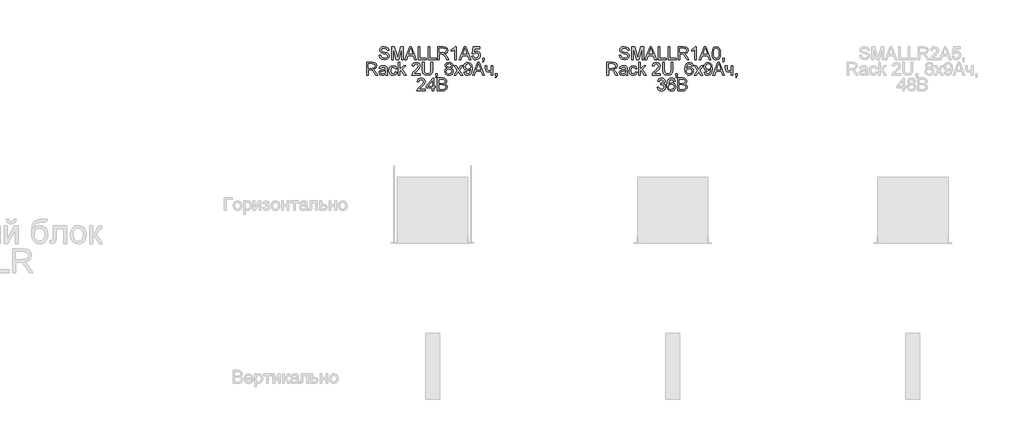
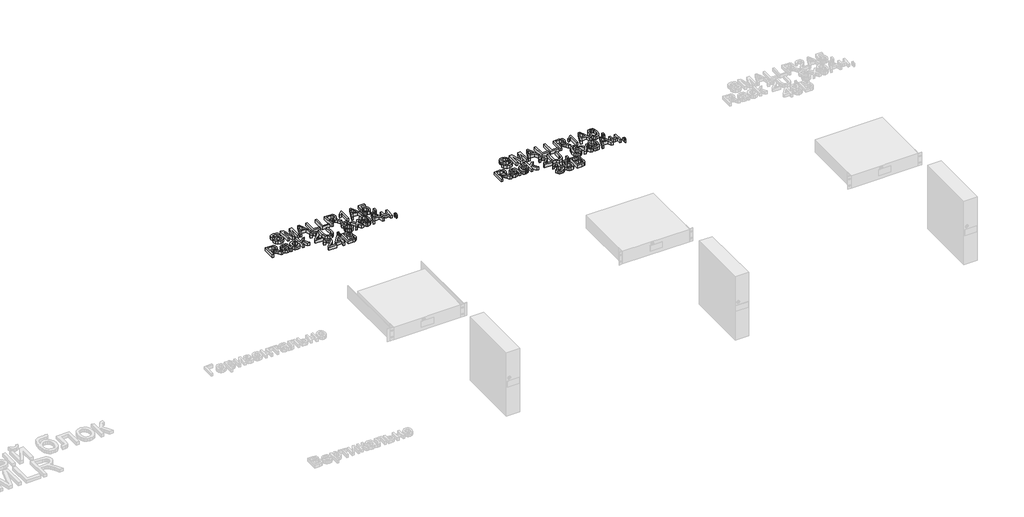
# One storey, part 16 of 74: 2 proxies.
"""IFC4 building model written with IfcOpenShell, lengths in millimetres."""

from ifc_helpers import new_model, si_unit, origin, origin_with_axes, place, context, project, spatial, polyline, outline, extrude, element, save

model = new_model("IFC4")

# Units and contexts
model_context = context("Model", 3, world=origin())
ifc_project = project(units=[si_unit("LENGTHUNIT", "METRE", prefix="MILLI")], contexts=[model_context])

# Site, building, storey
site = spatial("IfcSite", under=ifc_project)
building = spatial("IfcBuilding", under=site)
storey = spatial("IfcBuildingStorey", under=building, Name="Этаж 01", Elevation=0.0)

# Proxies
placement = place(None, origin())
element("IfcBuildingElementProxy", 1, Name="80 мм Arial", ObjectType="80 мм Arial", at=placement, inside=storey, context=model_context, shape_type="SweptSolid", body=[
    extrude(outline(polyline([(1019.2043971, -23060.6810362), (1029.2500281, -23060.6810362), (1032.4873897, -23070.7364774), (1040.3944, -23077.0934783), (1052.4413091, -23079.5165944), (1062.9382087, -23077.6820895), (1069.7170476, -23072.6396536), (1071.9439599, -23065.9000555), (1070.2762282, -23059.6313463), (1063.4483384, -23055.0696095), (1048.8213503, -23051.2338266), (1033.0760009, -23046.2796824), (1024.5313284, -23038.8043203), (1021.7158049, -23028.8175504), (1025.1984211, -23017.4475442), (1035.3715845, -23009.4228116), (1050.2634477, -23006.6857695), (1066.1559499, -23009.550344), (1076.7509513, -23017.967484), (1080.7338871, -23030.5441432), (1070.6882561, -23030.5441432), (1064.9983479, -23020.223827), (1050.6558552, -23016.7314005), (1036.2741217, -23020.1845862), (1031.7614359, -23028.5232448), (1034.9595567, -23035.4884772), (1051.3621886, -23041.0999039), (1069.1382466, -23046.1423398), (1078.8601415, -23054.2847946), (1081.989591, -23065.6449906), (1078.3892525, -23077.6624691), (1068.0296955, -23086.4327759), (1052.8337166, -23089.5622254), (1034.8908854, -23086.1875212), (1023.5404996, -23076.024168), (1019.2043971, -23060.6810362)])), origin_with_axes(), (0.0, 0.0, 1.0), 20.0),
    extrude(outline(polyline([(1097.0580375, -23088.3065215), (1097.0580375, -23007.9414734), (1114.3435862, -23007.9414734), (1130.7854588, -23064.5854905), (1134.1013018, -23076.4165754), (1137.6918301, -23063.6044718), (1153.8590175, -23007.9414734), (1171.1445662, -23007.9414734), (1171.1445662, -23088.3065215), (1161.0989352, -23088.3065215), (1161.0989352, -23017.9871044), (1140.9095713, -23088.3065215), (1127.2930324, -23088.3065215), (1107.1036685, -23017.9871044), (1107.1036685, -23088.3065215), (1097.0580375, -23088.3065215)])), origin_with_axes(), (0.0, 0.0, 1.0), 20.0),
    extrude(outline(polyline([(1179.3655025, -23088.3065215), (1211.4448125, -23007.9414734), (1219.9992952, -23007.9414734), (1252.0786052, -23088.3065215), (1241.4639833, -23088.3065215), (1232.2620283, -23063.192444), (1199.162459, -23063.192444), (1189.9801244, -23088.3065215), (1179.3655025, -23088.3065215)]), holes=[polyline([(1202.8510891, -23053.146813), (1228.5930186, -23053.146813), (1221.3531009, -23033.3890973), (1215.7220538, -23017.9871044), (1210.7188587, -23031.6625045), (1202.8510891, -23053.146813)])]), origin_with_axes(), (0.0, 0.0, 1.0), 20.0),
    extrude(outline(polyline([(1262.8109492, -23088.3065215), (1262.8109492, -23007.9414734), (1272.8565802, -23007.9414734), (1272.8565802, -23078.2608905), (1313.0391043, -23078.2608905), (1313.0391043, -23088.3065215), (1262.8109492, -23088.3065215)])), origin_with_axes(), (0.0, 0.0, 1.0), 20.0),
    extrude(outline(polyline([(1324.3404392, -23088.3065215), (1324.3404392, -23007.9414734), (1334.3860702, -23007.9414734), (1334.3860702, -23078.2608905), (1374.5685943, -23078.2608905), (1374.5685943, -23088.3065215), (1324.3404392, -23088.3065215)])), origin_with_axes(), (0.0, 0.0, 1.0), 20.0),
    extrude(outline(polyline([(1385.8699292, -23088.3065215), (1385.8699292, -23007.9414734), (1420.4998876, -23007.9414734), (1436.5787834, -23010.1095246), (1445.3687105, -23017.7810905), (1448.655123, -23029.9359116), (1443.2104695, -23044.415747), (1426.3859996, -23051.8911091), (1432.0955281, -23056.1879708), (1440.237983, -23066.5279074), (1453.6386978, -23088.3065215), (1441.9645758, -23088.3065215), (1431.5069169, -23071.6488248), (1423.9530733, -23060.6221751), (1418.6457624, -23055.4129661), (1413.8682015, -23053.4999797), (1408.0409507, -23053.146813), (1395.9155602, -23053.146813), (1395.9155602, -23088.3065215), (1385.8699292, -23088.3065215)]), holes=[polyline([(1395.9155602, -23043.101182), (1418.4005077, -23043.101182), (1429.8686158, -23041.6787049), (1436.3825796, -23037.1267784), (1438.609492, -23030.3086987), (1434.3616812, -23021.4599105), (1420.9315358, -23017.9871044), (1395.9155602, -23017.9871044), (1395.9155602, -23043.101182)])]), origin_with_axes(), (0.0, 0.0, 1.0), 20.0),
    extrude(outline(polyline([(1500.138982, -23088.3065215), (1490.0933509, -23088.3065215), (1490.0933509, -23025.6782907), (1480.57747, -23032.4571296), (1470.0020889, -23037.528996), (1470.0020889, -23028.0327354), (1484.7271789, -23018.6345767), (1493.6642588, -23007.9414734), (1500.138982, -23007.9414734), (1500.138982, -23088.3065215)])), origin_with_axes(), (0.0, 0.0, 1.0), 20.0),
    extrude(outline(polyline([(1518.4055493, -23088.3065215), (1550.4848593, -23007.9414734), (1559.0393419, -23007.9414734), (1591.1186519, -23088.3065215), (1580.5040301, -23088.3065215), (1571.3020751, -23063.192444), (1538.2025057, -23063.192444), (1529.0201711, -23088.3065215), (1518.4055493, -23088.3065215)]), holes=[polyline([(1541.8911359, -23053.146813), (1567.6330653, -23053.146813), (1560.3931477, -23033.3890973), (1554.7621006, -23017.9871044), (1549.7589055, -23031.6625045), (1541.8911359, -23053.146813)])]), origin_with_axes(), (0.0, 0.0, 1.0), 20.0),
    extrude(outline(polyline([(1598.0838844, -23066.9595556), (1608.1295154, -23065.7038517), (1613.1915716, -23076.0535985), (1623.6884712, -23079.5165944), (1636.2847507, -23074.6997928), (1640.7778162, -23061.9171197), (1636.5692461, -23049.9879329), (1623.8454342, -23045.6125897), (1615.0260765, -23047.3588029), (1609.3852192, -23051.8911091), (1599.3395882, -23050.6354052), (1608.1295154, -23009.1971773), (1647.0563355, -23009.1971773), (1647.0563355, -23019.2428083), (1616.2523498, -23019.2428083), (1611.9554881, -23041.3745891), (1626.6511475, -23035.5669587), (1636.0370435, -23037.3671279), (1643.8287842, -23042.7676356), (1649.0747814, -23050.9983821), (1650.8234472, -23061.2892678), (1649.2489122, -23071.3348988), (1644.5253074, -23079.9286222), (1635.4803154, -23087.1538246), (1623.6492305, -23089.5622254), (1613.7826354, -23088.0146685), (1605.9222234, -23083.3719977), (1600.5339784, -23076.1737733), (1598.0838844, -23066.9595556)])), origin_with_axes(), (0.0, 0.0, 1.0), 20.0),
    extrude(outline(polyline([(1664.6361898, -23088.3065215), (1664.6361898, -23078.2608905), (1674.6818208, -23078.2608905), (1674.6818208, -23088.3065215), (1672.8767465, -23098.5777868), (1667.1475976, -23104.6306719), (1664.6361898, -23100.8635603), (1668.32482, -23096.5274578), (1669.639385, -23088.3065215), (1664.6361898, -23088.3065215)])), origin_with_axes(), (0.0, 0.0, 1.0), 20.0),
    extrude(outline(polyline([(941.9786087, -23185.8863758), (941.9786087, -23105.5213277), (976.6085672, -23105.5213277), (992.6874629, -23107.6893789), (1001.47739, -23115.3609448), (1004.7638025, -23127.5157659), (999.319149, -23141.9956012), (982.4946791, -23149.4709634), (988.2042077, -23153.7678251), (996.3466625, -23164.1077617), (1009.7473773, -23185.8863758), (998.0732553, -23185.8863758), (987.6155965, -23169.2286791), (980.0617528, -23158.2020294), (974.7544419, -23152.9928203), (969.9768811, -23151.079834), (964.1496303, -23150.7266673), (952.0242397, -23150.7266673), (952.0242397, -23185.8863758), (941.9786087, -23185.8863758)]), holes=[polyline([(952.0242397, -23140.6810362), (974.5091872, -23140.6810362), (985.9772953, -23139.2585592), (992.4912592, -23134.7066326), (994.7181715, -23127.888553), (990.4703607, -23119.0397647), (977.0402154, -23115.5669587), (952.0242397, -23115.5669587), (952.0242397, -23140.6810362)])]), origin_with_axes(), (0.0, 0.0, 1.0), 20.0),
    extrude(outline(polyline([(1058.7590692, -23178.3521525), (1049.017554, -23185.160422), (1038.2557794, -23187.1420797), (1023.668032, -23182.374329), (1018.5765452, -23170.1900773), (1020.4993417, -23162.2438262), (1025.5515878, -23156.4754366), (1032.5854916, -23153.1792139), (1041.2773168, -23151.6684452), (1058.7002081, -23148.2152595), (1058.7590692, -23145.978537), (1055.9925966, -23138.5620359), (1044.8874655, -23135.6582207), (1034.7241122, -23137.5908275), (1029.8778801, -23144.4481479), (1019.8322491, -23143.192444), (1024.1781617, -23133.3822575), (1032.9288481, -23127.6334881), (1046.1824101, -23125.6125897), (1058.3568516, -23127.3980437), (1065.2337924, -23131.8812989), (1068.3141909, -23138.6993786), (1068.8047003, -23147.4893057), (1068.8047003, -23159.9874833), (1069.31483, -23177.4398052), (1071.316108, -23185.8863758), (1061.270477, -23185.8863758), (1058.7590692, -23178.3521525)]), holes=[polyline([(1058.7590692, -23158.2608905), (1042.5526411, -23161.3412891), (1033.9098667, -23162.9697801), (1029.9956023, -23165.6185304), (1028.6221762, -23169.4837439), (1031.6142831, -23174.9185873), (1040.3944, -23177.0964487), (1050.5577533, -23174.692953), (1057.1109579, -23168.8755123), (1058.7002081, -23161.1058446), (1058.7590692, -23158.2608905)])]), origin_with_axes(), (0.0, 0.0, 1.0), 20.0),
    extrude(outline(polyline([(1120.2885592, -23164.5394099), (1130.3341902, -23165.7951138), (1127.533382, -23174.7297412), (1122.2702169, -23181.481602), (1106.3384739, -23187.1420797), (1095.6527283, -23185.1677796), (1087.2969019, -23179.2448795), (1081.9037518, -23169.6333493), (1080.1060351, -23156.5931588), (1083.1766235, -23139.9060315), (1092.5355415, -23129.1834976), (1106.2011313, -23125.6125897), (1121.4755918, -23130.517683), (1129.0784863, -23144.4481479), (1119.0328553, -23145.7038517), (1114.3730167, -23138.1794387), (1106.2796128, -23135.6582207), (1094.6349214, -23140.6221751), (1090.1516662, -23156.3184736), (1094.5368195, -23172.1619248), (1106.0049276, -23177.0964487), (1115.4717576, -23174.0160501), (1120.2885592, -23164.5394099)])), origin_with_axes(), (0.0, 0.0, 1.0), 20.0),
    extrude(outline(polyline([(1139.1241174, -23185.8863758), (1139.1241174, -23105.5213277), (1149.1697484, -23105.5213277), (1149.1697484, -23148.7057688), (1171.6939367, -23126.8682936), (1185.5851608, -23126.8682936), (1162.7862873, -23148.980454), (1186.8408647, -23185.8863758), (1175.1078816, -23185.8863758), (1155.5856104, -23155.9653069), (1149.1697484, -23162.1849651), (1149.1697484, -23185.8863758), (1139.1241174, -23185.8863758)])), origin_with_axes(), (0.0, 0.0, 1.0), 20.0),
    extrude(outline(polyline([(1275.9958399, -23175.8407448), (1275.9958399, -23185.8863758), (1223.2562771, -23185.8863758), (1224.3353976, -23178.9603841), (1230.4373337, -23168.2967113), (1243.0139928, -23156.6520199), (1260.3584026, -23139.9158417), (1264.694505, -23128.5360253), (1260.6036573, -23119.3242601), (1249.9203641, -23115.5669587), (1238.7858024, -23119.2359685), (1234.557612, -23129.3797013), (1224.511981, -23128.1239975), (1226.9473598, -23118.4070077), (1232.2129774, -23111.3093377), (1240.0341486, -23106.9683302), (1250.1361882, -23105.5213277), (1260.3118042, -23107.1301983), (1268.1182601, -23111.9568101), (1273.0846671, -23119.1672972), (1274.7401361, -23127.9277937), (1272.9546821, -23137.4534849), (1267.0195193, -23147.3029121), (1252.6279756, -23161.0666039), (1241.0715759, -23170.7296376), (1236.5392697, -23175.8407448), (1275.9958399, -23175.8407448)])), origin_with_axes(), (0.0, 0.0, 1.0), 20.0),
    extrude(outline(polyline([(1342.5481454, -23105.5213277), (1352.5937764, -23105.5213277), (1352.5937764, -23151.8842693), (1349.8665446, -23171.1024247), (1340.0367377, -23182.6784448), (1321.3973832, -23187.1420797), (1303.0425242, -23183.2572458), (1292.8595506, -23172.0049619), (1289.8085826, -23151.8842693), (1289.8085826, -23105.5213277), (1299.8542136, -23105.5213277), (1299.8542136, -23151.5311025), (1301.8358713, -23166.8448037), (1308.6441407, -23174.4280779), (1320.4556053, -23177.0964487), (1330.6729146, -23175.7769786), (1337.4664688, -23171.8185683), (1341.2777263, -23164.1077617), (1342.5481454, -23151.5311025), (1342.5481454, -23105.5213277)])), origin_with_axes(), (0.0, 0.0, 1.0), 20.0),
    extrude(outline(polyline([(1371.4293346, -23185.8863758), (1371.4293346, -23175.8407448), (1381.4749656, -23175.8407448), (1381.4749656, -23185.8863758), (1379.6698913, -23196.1576411), (1373.9407423, -23202.2105262), (1371.4293346, -23198.4434146), (1375.1179647, -23194.1073121), (1376.4325297, -23185.8863758), (1371.4293346, -23185.8863758)])), origin_with_axes(), (0.0, 0.0, 1.0), 20.0),
    extrude(outline(polyline([(1443.8285112, -23141.6228141), (1434.6756072, -23135.3835355), (1431.7031207, -23125.6714508), (1433.3218014, -23117.8183965), (1438.1778438, -23111.3289581), (1445.7267823, -23106.9732353), (1455.4241517, -23105.5213277), (1465.1803822, -23107.0075709), (1472.8274226, -23111.4663007), (1477.7717566, -23118.0587461), (1479.419868, -23125.9461361), (1476.4866222, -23135.4129661), (1467.588783, -23141.6228141), (1478.2720762, -23149.5003939), (1481.9312757, -23162.4988911), (1480.1163912, -23172.1030637), (1474.6717377, -23180.0395046), (1466.2644078, -23185.3664359), (1455.5614943, -23187.1420797), (1444.8585808, -23185.3590783), (1436.4512509, -23180.0100741), (1431.0065974, -23171.9976042), (1429.1917129, -23162.2242059), (1432.9980653, -23148.9215929), (1443.8285112, -23141.6228141)]), holes=[polyline([(1441.7487517, -23125.9657564), (1445.3098494, -23133.8531464), (1455.6792166, -23136.9139246), (1465.8425698, -23133.8727668), (1469.374237, -23126.417025), (1465.7248476, -23118.6964082), (1455.5614943, -23115.5669587), (1445.3687105, -23118.6277369), (1441.7487517, -23125.9657564)]), polyline([(1439.2373439, -23161.8710392), (1440.9148858, -23169.434693), (1446.8500487, -23175.0951706), (1455.6399758, -23177.0964487), (1467.6084034, -23172.8878786), (1471.8856447, -23162.1849651), (1467.4710608, -23151.2760377), (1455.3064295, -23146.9595556), (1443.4851547, -23151.2171766), (1439.2373439, -23161.8710392)])]), origin_with_axes(), (0.0, 0.0, 1.0), 20.0),
    extrude(outline(polyline([(1486.9540912, -23185.8863758), (1508.4187794, -23156.2203717), (1488.2097951, -23126.8682936), (1500.2959449, -23126.8682936), (1510.0472704, -23140.9949622), (1514.5991969, -23147.6658891), (1518.5428919, -23142.2114253), (1529.6480231, -23126.8682936), (1541.7341729, -23126.8682936), (1520.5049292, -23156.2203717), (1540.949358, -23185.8863758), (1528.8632081, -23185.8863758), (1516.5612342, -23168.0514567), (1514.3048913, -23164.7944747), (1499.0402411, -23185.8863758), (1486.9540912, -23185.8863758)])), origin_with_axes(), (0.0, 0.0, 1.0), 20.0),
    extrude(outline(polyline([(1548.4835812, -23165.7951138), (1558.5292122, -23164.5394099), (1563.041898, -23174.1239621), (1571.5963807, -23177.0964487), (1579.7290253, -23175.1834623), (1585.2423502, -23170.0723551), (1588.5287627, -23161.3412891), (1589.9806703, -23149.6867875), (1589.9218092, -23147.7247502), (1581.8872664, -23155.3374549), (1570.8704269, -23158.2608905), (1561.7101652, -23156.4754366), (1554.0851977, -23151.1190747), (1548.9422074, -23142.8441824), (1547.2278773, -23132.3031369), (1549.025594, -23121.4138299), (1554.4187441, -23112.8789676), (1562.5195056, -23107.3607377), (1572.4400567, -23105.5213277), (1586.7531189, -23109.7200875), (1596.6025462, -23121.6885151), (1599.9674402, -23144.1734626), (1596.6123564, -23168.5713966), (1586.6353967, -23182.3939494), (1571.1254917, -23187.1420797), (1562.5366734, -23185.7416756), (1555.6842581, -23181.5404632), (1548.4835812, -23165.7951138)]), holes=[polyline([(1589.9218092, -23132.0676925), (1585.5857067, -23120.0207834), (1574.0685477, -23115.5669587), (1561.9823979, -23120.3641399), (1557.2735084, -23132.7936463), (1561.727333, -23143.928208), (1573.7938625, -23148.2152595), (1585.3796928, -23143.928208), (1589.9218092, -23132.0676925)])]), origin_with_axes(), (0.0, 0.0, 1.0), 20.0),
    extrude(outline(polyline([(1603.165561, -23185.8863758), (1635.244871, -23105.5213277), (1643.7993536, -23105.5213277), (1675.8786636, -23185.8863758), (1665.2640418, -23185.8863758), (1656.0620868, -23160.7722983), (1622.9625174, -23160.7722983), (1613.7801828, -23185.8863758), (1603.165561, -23185.8863758)]), holes=[polyline([(1626.6511475, -23150.7266673), (1652.393077, -23150.7266673), (1645.1531594, -23130.9689516), (1639.5221123, -23115.5669587), (1634.5189172, -23129.2423587), (1626.6511475, -23150.7266673)])]), origin_with_axes(), (0.0, 0.0, 1.0), 20.0),
    extrude(outline(polyline([(1681.5881922, -23126.8682936), (1691.6338232, -23126.8682936), (1691.6338232, -23138.1892489), (1692.4480687, -23148.8038707), (1696.3623331, -23154.55264), (1704.1320008, -23157.0051866), (1718.0036046, -23153.9640288), (1718.0036046, -23126.8682936), (1728.0492356, -23126.8682936), (1728.0492356, -23185.8863758), (1718.0036046, -23185.8863758), (1718.0036046, -23163.597632), (1701.4440097, -23167.0508177), (1690.0543831, -23163.4504792), (1683.3540257, -23154.6311215), (1681.5881922, -23143.1532032), (1681.5881922, -23126.8682936)])), origin_with_axes(), (0.0, 0.0, 1.0), 20.0),
    extrude(outline(polyline([(1745.6290899, -23185.8863758), (1745.6290899, -23175.8407448), (1755.6747209, -23175.8407448), (1755.6747209, -23185.8863758), (1753.8696466, -23196.1576411), (1748.1404976, -23202.2105262), (1745.6290899, -23198.4434146), (1749.31772, -23194.1073121), (1750.632285, -23185.8863758), (1745.6290899, -23185.8863758)])), origin_with_axes(), (0.0, 0.0, 1.0), 20.0),
    extrude(outline(polyline([(1308.0162888, -23273.4205991), (1308.0162888, -23283.4662301), (1255.276726, -23283.4662301), (1256.3558465, -23276.5402384), (1262.4577825, -23265.8765656), (1275.0344417, -23254.2318742), (1292.3788515, -23237.495696), (1296.7149539, -23226.1158796), (1292.6241061, -23216.9041144), (1281.940813, -23213.146813), (1270.8062513, -23216.8158227), (1266.5780609, -23226.9595556), (1256.5324298, -23225.7038517), (1258.9678087, -23215.986862), (1264.2334263, -23208.889192), (1272.0545975, -23204.5481845), (1282.1566371, -23203.101182), (1292.3322531, -23204.7100526), (1300.138709, -23209.5366643), (1305.1051159, -23216.7471514), (1306.7605849, -23225.507648), (1304.975131, -23235.0333391), (1299.0399681, -23244.8827664), (1284.6484245, -23258.6464581), (1273.0920247, -23268.3094919), (1268.5597185, -23273.4205991), (1308.0162888, -23273.4205991)])), origin_with_axes(), (0.0, 0.0, 1.0), 20.0),
    extrude(outline(polyline([(1350.7102206, -23283.4662301), (1350.7102206, -23264.6306719), (1314.2948082, -23264.6306719), (1314.2948082, -23254.5850409), (1353.2216284, -23204.3568858), (1360.7558516, -23204.3568858), (1360.7558516, -23254.5850409), (1370.8014826, -23254.5850409), (1370.8014826, -23264.6306719), (1360.7558516, -23264.6306719), (1360.7558516, -23283.4662301), (1350.7102206, -23283.4662301)]), holes=[polyline([(1350.7102206, -23254.5850409), (1350.7102206, -23223.5456107), (1326.6556432, -23254.5850409), (1350.7102206, -23254.5850409)])]), origin_with_axes(), (0.0, 0.0, 1.0), 20.0),
    extrude(outline(polyline([(1383.3585214, -23283.4662301), (1383.3585214, -23203.101182), (1414.0251645, -23203.101182), (1429.0445601, -23205.4654369), (1437.9129687, -23212.7347851), (1441.1208997, -23223.0158606), (1438.4230984, -23232.4042091), (1430.2708334, -23239.5165944), (1440.1693116, -23247.0115769), (1443.6323075, -23259.5097546), (1441.2680525, -23270.3107699), (1435.4113712, -23278.0019562), (1426.670495, -23282.0829938), (1413.78972, -23283.4662301), (1383.3585214, -23283.4662301)]), holes=[polyline([(1393.4041524, -23235.7494828), (1411.7492012, -23235.7494828), (1422.4619249, -23234.8861863), (1428.9072175, -23231.1681256), (1431.0752687, -23224.6247312), (1429.0543703, -23218.0715266), (1423.2663602, -23214.1965029), (1410.3561548, -23213.146813), (1393.4041524, -23213.146813), (1393.4041524, -23235.7494828)]), polyline([(1393.4041524, -23273.4205991), (1414.0055442, -23273.4205991), (1421.4612859, -23273.0281916), (1427.7692359, -23270.84052), (1431.9483753, -23266.3768851), (1433.5866765, -23259.6078564), (1431.6638799, -23251.7989479), (1425.4344115, -23247.1391093), (1413.0245255, -23245.7951138), (1393.4041524, -23245.7951138), (1393.4041524, -23273.4205991)])]), origin_with_axes(), (0.0, 0.0, 1.0), 20.0),
])
element("IfcBuildingElementProxy", 2, Name="80 мм Arial", ObjectType="80 мм Arial", at=placement, inside=storey, context=model_context, shape_type="SweptSolid", body=[
    extrude(outline(polyline([(2519.2043971, -23060.6810362), (2529.2500281, -23060.6810362), (2532.4873897, -23070.7364774), (2540.3944, -23077.0934783), (2552.4413091, -23079.5165944), (2562.9382087, -23077.6820895), (2569.7170476, -23072.6396536), (2571.9439599, -23065.9000555), (2570.2762282, -23059.6313463), (2563.4483384, -23055.0696095), (2548.8213503, -23051.2338266), (2533.0760009, -23046.2796824), (2524.5313284, -23038.8043203), (2521.7158049, -23028.8175504), (2525.1984211, -23017.4475442), (2535.3715845, -23009.4228116), (2550.2634477, -23006.6857695), (2566.1559499, -23009.550344), (2576.7509513, -23017.967484), (2580.7338871, -23030.5441432), (2570.6882561, -23030.5441432), (2564.9983479, -23020.223827), (2550.6558552, -23016.7314005), (2536.2741217, -23020.1845862), (2531.7614359, -23028.5232448), (2534.9595567, -23035.4884772), (2551.3621886, -23041.0999039), (2569.1382466, -23046.1423398), (2578.8601415, -23054.2847946), (2581.989591, -23065.6449906), (2578.3892525, -23077.6624691), (2568.0296955, -23086.4327759), (2552.8337166, -23089.5622254), (2534.8908854, -23086.1875212), (2523.5404996, -23076.024168), (2519.2043971, -23060.6810362)])), origin_with_axes(), (0.0, 0.0, 1.0), 20.0),
    extrude(outline(polyline([(2597.0580375, -23088.3065215), (2597.0580375, -23007.9414734), (2614.3435862, -23007.9414734), (2630.7854588, -23064.5854905), (2634.1013018, -23076.4165754), (2637.6918301, -23063.6044718), (2653.8590175, -23007.9414734), (2671.1445662, -23007.9414734), (2671.1445662, -23088.3065215), (2661.0989352, -23088.3065215), (2661.0989352, -23017.9871044), (2640.9095713, -23088.3065215), (2627.2930324, -23088.3065215), (2607.1036685, -23017.9871044), (2607.1036685, -23088.3065215), (2597.0580375, -23088.3065215)])), origin_with_axes(), (0.0, 0.0, 1.0), 20.0),
    extrude(outline(polyline([(2679.3655025, -23088.3065215), (2711.4448125, -23007.9414734), (2719.9992952, -23007.9414734), (2752.0786052, -23088.3065215), (2741.4639833, -23088.3065215), (2732.2620283, -23063.192444), (2699.162459, -23063.192444), (2689.9801244, -23088.3065215), (2679.3655025, -23088.3065215)]), holes=[polyline([(2702.8510891, -23053.146813), (2728.5930186, -23053.146813), (2721.3531009, -23033.3890973), (2715.7220538, -23017.9871044), (2710.7188587, -23031.6625045), (2702.8510891, -23053.146813)])]), origin_with_axes(), (0.0, 0.0, 1.0), 20.0),
    extrude(outline(polyline([(2762.8109492, -23088.3065215), (2762.8109492, -23007.9414734), (2772.8565802, -23007.9414734), (2772.8565802, -23078.2608905), (2813.0391043, -23078.2608905), (2813.0391043, -23088.3065215), (2762.8109492, -23088.3065215)])), origin_with_axes(), (0.0, 0.0, 1.0), 20.0),
    extrude(outline(polyline([(2824.3404392, -23088.3065215), (2824.3404392, -23007.9414734), (2834.3860702, -23007.9414734), (2834.3860702, -23078.2608905), (2874.5685943, -23078.2608905), (2874.5685943, -23088.3065215), (2824.3404392, -23088.3065215)])), origin_with_axes(), (0.0, 0.0, 1.0), 20.0),
    extrude(outline(polyline([(2885.8699292, -23088.3065215), (2885.8699292, -23007.9414734), (2920.4998876, -23007.9414734), (2936.5787834, -23010.1095246), (2945.3687105, -23017.7810905), (2948.655123, -23029.9359116), (2943.2104695, -23044.415747), (2926.3859996, -23051.8911091), (2932.0955281, -23056.1879708), (2940.237983, -23066.5279074), (2953.6386978, -23088.3065215), (2941.9645758, -23088.3065215), (2931.5069169, -23071.6488248), (2923.9530733, -23060.6221751), (2918.6457624, -23055.4129661), (2913.8682015, -23053.4999797), (2908.0409507, -23053.146813), (2895.9155602, -23053.146813), (2895.9155602, -23088.3065215), (2885.8699292, -23088.3065215)]), holes=[polyline([(2895.9155602, -23043.101182), (2918.4005077, -23043.101182), (2929.8686158, -23041.6787049), (2936.3825796, -23037.1267784), (2938.609492, -23030.3086987), (2934.3616812, -23021.4599105), (2920.9315358, -23017.9871044), (2895.9155602, -23017.9871044), (2895.9155602, -23043.101182)])]), origin_with_axes(), (0.0, 0.0, 1.0), 20.0),
    extrude(outline(polyline([(3000.138982, -23088.3065215), (2990.0933509, -23088.3065215), (2990.0933509, -23025.6782907), (2980.57747, -23032.4571296), (2970.0020889, -23037.528996), (2970.0020889, -23028.0327354), (2984.7271789, -23018.6345767), (2993.6642588, -23007.9414734), (3000.138982, -23007.9414734), (3000.138982, -23088.3065215)])), origin_with_axes(), (0.0, 0.0, 1.0), 20.0),
    extrude(outline(polyline([(3018.4055493, -23088.3065215), (3050.4848593, -23007.9414734), (3059.0393419, -23007.9414734), (3091.1186519, -23088.3065215), (3080.5040301, -23088.3065215), (3071.3020751, -23063.192444), (3038.2025057, -23063.192444), (3029.0201711, -23088.3065215), (3018.4055493, -23088.3065215)]), holes=[polyline([(3041.8911359, -23053.146813), (3067.6330653, -23053.146813), (3060.3931477, -23033.3890973), (3054.7621006, -23017.9871044), (3049.7589055, -23031.6625045), (3041.8911359, -23053.146813)])]), origin_with_axes(), (0.0, 0.0, 1.0), 20.0),
    extrude(outline(polyline([(3098.0838844, -23048.7714698), (3101.0367505, -23025.6488601), (3109.8070573, -23012.3168166), (3124.4536658, -23007.9414734), (3136.1866489, -23010.5313627), (3144.2898629, -23017.9969146), (3148.9987525, -23029.8868607), (3150.8234472, -23048.7714698), (3147.9000116, -23071.7959776), (3139.1591354, -23085.1574516), (3124.4536658, -23089.5622254), (3114.0156273, -23087.649239), (3106.0889966, -23081.9102799), (3100.0851624, -23068.3182665), (3098.0838844, -23048.7714698)]), holes=[polyline([(3108.1295154, -23048.7518494), (3109.3067378, -23064.5536074), (3112.8384049, -23073.6991538), (3124.4536658, -23079.5165944), (3136.0689266, -23073.6795334), (3139.6005938, -23064.5290819), (3140.7778162, -23048.7518494), (3139.6398345, -23033.3057107), (3136.2258896, -23024.0890404), (3130.9774398, -23019.5125884), (3124.3359435, -23017.9871044), (3112.9953679, -23023.3630866), (3109.3459785, -23033.1536528), (3108.1295154, -23048.7518494)])]), origin_with_axes(), (0.0, 0.0, 1.0), 20.0),
    extrude(outline(polyline([(3164.6361898, -23088.3065215), (3164.6361898, -23078.2608905), (3174.6818208, -23078.2608905), (3174.6818208, -23088.3065215), (3172.8767465, -23098.5777868), (3167.1475976, -23104.6306719), (3164.6361898, -23100.8635603), (3168.32482, -23096.5274578), (3169.639385, -23088.3065215), (3164.6361898, -23088.3065215)])), origin_with_axes(), (0.0, 0.0, 1.0), 20.0),
    extrude(outline(polyline([(2441.9786087, -23185.8863758), (2441.9786087, -23105.5213277), (2476.6085672, -23105.5213277), (2492.6874629, -23107.6893789), (2501.47739, -23115.3609448), (2504.7638025, -23127.5157659), (2499.319149, -23141.9956012), (2482.4946791, -23149.4709634), (2488.2042077, -23153.7678251), (2496.3466625, -23164.1077617), (2509.7473773, -23185.8863758), (2498.0732553, -23185.8863758), (2487.6155965, -23169.2286791), (2480.0617528, -23158.2020294), (2474.7544419, -23152.9928203), (2469.9768811, -23151.079834), (2464.1496303, -23150.7266673), (2452.0242397, -23150.7266673), (2452.0242397, -23185.8863758), (2441.9786087, -23185.8863758)]), holes=[polyline([(2452.0242397, -23140.6810362), (2474.5091872, -23140.6810362), (2485.9772953, -23139.2585592), (2492.4912592, -23134.7066326), (2494.7181715, -23127.888553), (2490.4703607, -23119.0397647), (2477.0402154, -23115.5669587), (2452.0242397, -23115.5669587), (2452.0242397, -23140.6810362)])]), origin_with_axes(), (0.0, 0.0, 1.0), 20.0),
    extrude(outline(polyline([(2558.7590692, -23178.3521525), (2549.017554, -23185.160422), (2538.2557794, -23187.1420797), (2523.668032, -23182.374329), (2518.5765452, -23170.1900773), (2520.4993417, -23162.2438262), (2525.5515878, -23156.4754366), (2532.5854916, -23153.1792139), (2541.2773168, -23151.6684452), (2558.7002081, -23148.2152595), (2558.7590692, -23145.978537), (2555.9925966, -23138.5620359), (2544.8874655, -23135.6582207), (2534.7241122, -23137.5908275), (2529.8778801, -23144.4481479), (2519.8322491, -23143.192444), (2524.1781617, -23133.3822575), (2532.9288481, -23127.6334881), (2546.1824101, -23125.6125897), (2558.3568516, -23127.3980437), (2565.2337924, -23131.8812989), (2568.3141909, -23138.6993786), (2568.8047003, -23147.4893057), (2568.8047003, -23159.9874833), (2569.31483, -23177.4398052), (2571.316108, -23185.8863758), (2561.270477, -23185.8863758), (2558.7590692, -23178.3521525)]), holes=[polyline([(2558.7590692, -23158.2608905), (2542.5526411, -23161.3412891), (2533.9098667, -23162.9697801), (2529.9956023, -23165.6185304), (2528.6221762, -23169.4837439), (2531.6142831, -23174.9185873), (2540.3944, -23177.0964487), (2550.5577533, -23174.692953), (2557.1109579, -23168.8755123), (2558.7002081, -23161.1058446), (2558.7590692, -23158.2608905)])]), origin_with_axes(), (0.0, 0.0, 1.0), 20.0),
    extrude(outline(polyline([(2620.2885592, -23164.5394099), (2630.3341902, -23165.7951138), (2627.533382, -23174.7297412), (2622.2702169, -23181.481602), (2606.3384739, -23187.1420797), (2595.6527283, -23185.1677796), (2587.2969019, -23179.2448795), (2581.9037518, -23169.6333493), (2580.1060351, -23156.5931588), (2583.1766235, -23139.9060315), (2592.5355415, -23129.1834976), (2606.2011313, -23125.6125897), (2621.4755918, -23130.517683), (2629.0784863, -23144.4481479), (2619.0328553, -23145.7038517), (2614.3730167, -23138.1794387), (2606.2796128, -23135.6582207), (2594.6349214, -23140.6221751), (2590.1516662, -23156.3184736), (2594.5368195, -23172.1619248), (2606.0049276, -23177.0964487), (2615.4717576, -23174.0160501), (2620.2885592, -23164.5394099)])), origin_with_axes(), (0.0, 0.0, 1.0), 20.0),
    extrude(outline(polyline([(2639.1241174, -23185.8863758), (2639.1241174, -23105.5213277), (2649.1697484, -23105.5213277), (2649.1697484, -23148.7057688), (2671.6939367, -23126.8682936), (2685.5851608, -23126.8682936), (2662.7862873, -23148.980454), (2686.8408647, -23185.8863758), (2675.1078816, -23185.8863758), (2655.5856104, -23155.9653069), (2649.1697484, -23162.1849651), (2649.1697484, -23185.8863758), (2639.1241174, -23185.8863758)])), origin_with_axes(), (0.0, 0.0, 1.0), 20.0),
    extrude(outline(polyline([(2775.9958399, -23175.8407448), (2775.9958399, -23185.8863758), (2723.2562771, -23185.8863758), (2724.3353976, -23178.9603841), (2730.4373337, -23168.2967113), (2743.0139928, -23156.6520199), (2760.3584026, -23139.9158417), (2764.694505, -23128.5360253), (2760.6036573, -23119.3242601), (2749.9203641, -23115.5669587), (2738.7858024, -23119.2359685), (2734.557612, -23129.3797013), (2724.511981, -23128.1239975), (2726.9473598, -23118.4070077), (2732.2129774, -23111.3093377), (2740.0341486, -23106.9683302), (2750.1361882, -23105.5213277), (2760.3118042, -23107.1301983), (2768.1182601, -23111.9568101), (2773.0846671, -23119.1672972), (2774.7401361, -23127.9277937), (2772.9546821, -23137.4534849), (2767.0195193, -23147.3029121), (2752.6279756, -23161.0666039), (2741.0715759, -23170.7296376), (2736.5392697, -23175.8407448), (2775.9958399, -23175.8407448)])), origin_with_axes(), (0.0, 0.0, 1.0), 20.0),
    extrude(outline(polyline([(2842.5481454, -23105.5213277), (2852.5937764, -23105.5213277), (2852.5937764, -23151.8842693), (2849.8665446, -23171.1024247), (2840.0367377, -23182.6784448), (2821.3973832, -23187.1420797), (2803.0425242, -23183.2572458), (2792.8595506, -23172.0049619), (2789.8085826, -23151.8842693), (2789.8085826, -23105.5213277), (2799.8542136, -23105.5213277), (2799.8542136, -23151.5311025), (2801.8358713, -23166.8448037), (2808.6441407, -23174.4280779), (2820.4556053, -23177.0964487), (2830.6729146, -23175.7769786), (2837.4664688, -23171.8185683), (2841.2777263, -23164.1077617), (2842.5481454, -23151.5311025), (2842.5481454, -23105.5213277)])), origin_with_axes(), (0.0, 0.0, 1.0), 20.0),
    extrude(outline(polyline([(2871.4293346, -23185.8863758), (2871.4293346, -23175.8407448), (2881.4749656, -23175.8407448), (2881.4749656, -23185.8863758), (2879.6698913, -23196.1576411), (2873.9407423, -23202.2105262), (2871.4293346, -23198.4434146), (2875.1179647, -23194.1073121), (2876.4325297, -23185.8863758), (2871.4293346, -23185.8863758)])), origin_with_axes(), (0.0, 0.0, 1.0), 20.0),
    extrude(outline(polyline([(2980.6755719, -23126.8682936), (2970.6299408, -23128.1239975), (2966.8235885, -23119.7460982), (2956.7583371, -23115.5669587), (2947.6937247, -23117.999885), (2940.8364043, -23127.1331686), (2937.98164, -23145.0367591), (2946.8402385, -23137.0218367), (2957.8178372, -23134.4025169), (2967.0982737, -23136.1928759), (2974.8875618, -23141.563953), (2980.1703473, -23149.7701741), (2981.9312757, -23160.0659648), (2978.6154327, -23173.9277584), (2969.4919592, -23183.737945), (2956.3266889, -23187.1420797), (2944.9297047, -23184.8857368), (2935.8528296, -23178.1167081), (2929.9152142, -23166.1679009), (2927.936009, -23148.3722225), (2930.1334908, -23128.364347), (2936.7259362, -23114.6840419), (2945.7267823, -23107.8120062), (2957.386189, -23105.5213277), (2966.2006416, -23106.9388996), (2973.2590708, -23111.1916155), (2980.6755719, -23126.8682936)]), holes=[polyline([(2937.98164, -23159.9090019), (2940.3066543, -23168.6106373), (2946.4870718, -23174.9283974), (2955.541874, -23177.0964487), (2967.3827691, -23172.6033832), (2971.8856447, -23160.3995112), (2967.4416302, -23148.715579), (2955.1298461, -23144.4481479), (2942.975025, -23148.715579), (2937.98164, -23159.9090019)])]), origin_with_axes(), (0.0, 0.0, 1.0), 20.0),
    extrude(outline(polyline([(2986.9540912, -23185.8863758), (3008.4187794, -23156.2203717), (2988.2097951, -23126.8682936), (3000.2959449, -23126.8682936), (3010.0472704, -23140.9949622), (3014.5991969, -23147.6658891), (3018.5428919, -23142.2114253), (3029.6480231, -23126.8682936), (3041.7341729, -23126.8682936), (3020.5049292, -23156.2203717), (3040.949358, -23185.8863758), (3028.8632081, -23185.8863758), (3016.5612342, -23168.0514567), (3014.3048913, -23164.7944747), (2999.0402411, -23185.8863758), (2986.9540912, -23185.8863758)])), origin_with_axes(), (0.0, 0.0, 1.0), 20.0),
    extrude(outline(polyline([(3048.4835812, -23165.7951138), (3058.5292122, -23164.5394099), (3063.041898, -23174.1239621), (3071.5963807, -23177.0964487), (3079.7290253, -23175.1834623), (3085.2423502, -23170.0723551), (3088.5287627, -23161.3412891), (3089.9806703, -23149.6867875), (3089.9218092, -23147.7247502), (3081.8872664, -23155.3374549), (3070.8704269, -23158.2608905), (3061.7101652, -23156.4754366), (3054.0851977, -23151.1190747), (3048.9422074, -23142.8441824), (3047.2278773, -23132.3031369), (3049.025594, -23121.4138299), (3054.4187441, -23112.8789676), (3062.5195056, -23107.3607377), (3072.4400567, -23105.5213277), (3086.7531189, -23109.7200875), (3096.6025462, -23121.6885151), (3099.9674402, -23144.1734626), (3096.6123564, -23168.5713966), (3086.6353967, -23182.3939494), (3071.1254917, -23187.1420797), (3062.5366734, -23185.7416756), (3055.6842581, -23181.5404632), (3048.4835812, -23165.7951138)]), holes=[polyline([(3089.9218092, -23132.0676925), (3085.5857067, -23120.0207834), (3074.0685477, -23115.5669587), (3061.9823979, -23120.3641399), (3057.2735084, -23132.7936463), (3061.727333, -23143.928208), (3073.7938625, -23148.2152595), (3085.3796928, -23143.928208), (3089.9218092, -23132.0676925)])]), origin_with_axes(), (0.0, 0.0, 1.0), 20.0),
    extrude(outline(polyline([(3103.165561, -23185.8863758), (3135.244871, -23105.5213277), (3143.7993536, -23105.5213277), (3175.8786636, -23185.8863758), (3165.2640418, -23185.8863758), (3156.0620868, -23160.7722983), (3122.9625174, -23160.7722983), (3113.7801828, -23185.8863758), (3103.165561, -23185.8863758)]), holes=[polyline([(3126.6511475, -23150.7266673), (3152.393077, -23150.7266673), (3145.1531594, -23130.9689516), (3139.5221123, -23115.5669587), (3134.5189172, -23129.2423587), (3126.6511475, -23150.7266673)])]), origin_with_axes(), (0.0, 0.0, 1.0), 20.0),
    extrude(outline(polyline([(3181.5881922, -23126.8682936), (3191.6338232, -23126.8682936), (3191.6338232, -23138.1892489), (3192.4480687, -23148.8038707), (3196.3623331, -23154.55264), (3204.1320008, -23157.0051866), (3218.0036046, -23153.9640288), (3218.0036046, -23126.8682936), (3228.0492356, -23126.8682936), (3228.0492356, -23185.8863758), (3218.0036046, -23185.8863758), (3218.0036046, -23163.597632), (3201.4440097, -23167.0508177), (3190.0543831, -23163.4504792), (3183.3540257, -23154.6311215), (3181.5881922, -23143.1532032), (3181.5881922, -23126.8682936)])), origin_with_axes(), (0.0, 0.0, 1.0), 20.0),
    extrude(outline(polyline([(3245.6290899, -23185.8863758), (3245.6290899, -23175.8407448), (3255.6747209, -23175.8407448), (3255.6747209, -23185.8863758), (3253.8696466, -23196.1576411), (3248.1404976, -23202.2105262), (3245.6290899, -23198.4434146), (3249.31772, -23194.1073121), (3250.632285, -23185.8863758), (3245.6290899, -23185.8863758)])), origin_with_axes(), (0.0, 0.0, 1.0), 20.0),
    extrude(outline(polyline([(2756.5324298, -23262.1192642), (2766.5780609, -23260.8635603), (2772.1208163, -23271.4389414), (2782.4901834, -23274.6763029), (2794.6940555, -23270.2224783), (2799.2263617, -23259.1958286), (2794.7332962, -23248.806841), (2783.3142391, -23244.6963729), (2776.2705252, -23245.7951138), (2777.3888864, -23235.7494828), (2778.997757, -23235.867205), (2790.3971938, -23232.9830102), (2795.45925, -23224.1146015), (2791.7902403, -23216.2566421), (2782.3332204, -23213.146813), (2772.7584784, -23216.2860727), (2767.8337647, -23225.7038517), (2757.7881337, -23224.4481479), (2766.00907, -23208.6929883), (2781.9800537, -23203.101182), (2794.0956341, -23205.8578444), (2802.5716353, -23213.3920676), (2805.504881, -23223.5259903), (2802.7187881, -23232.7868064), (2794.4782314, -23239.4381129), (2805.4263995, -23246.3052435), (2809.2719927, -23259.3724119), (2807.3491961, -23269.1629781), (2801.5808064, -23277.3446737), (2792.8742659, -23282.8776189), (2782.1370167, -23284.721934), (2772.424932, -23283.147399), (2764.5179217, -23278.4237942), (2759.0193121, -23271.1985918), (2756.5324298, -23262.1192642)])), origin_with_axes(), (0.0, 0.0, 1.0), 20.0),
    extrude(outline(polyline([(2869.5457788, -23224.4481479), (2859.5001477, -23225.7038517), (2855.6937954, -23217.3259524), (2845.628544, -23213.146813), (2836.5639316, -23215.5797392), (2829.7066112, -23224.7130229), (2826.8518469, -23242.6166133), (2835.7104454, -23234.6016909), (2846.6880441, -23231.9823711), (2855.9684806, -23233.7727302), (2863.7577687, -23239.1438073), (2869.0405542, -23247.3500283), (2870.8014826, -23257.6458191), (2867.4856396, -23271.5076127), (2858.3621661, -23281.3177992), (2845.1968958, -23284.721934), (2833.7999116, -23282.4655911), (2824.7230365, -23275.6965623), (2818.7854211, -23263.7477551), (2816.8062159, -23245.9520768), (2819.0036977, -23225.9442013), (2825.5961431, -23212.2638962), (2834.5969892, -23205.3918605), (2846.2563959, -23203.101182), (2855.0708485, -23204.5187539), (2862.1292777, -23208.7714698), (2869.5457788, -23224.4481479)]), holes=[polyline([(2826.8518469, -23257.4888561), (2829.1768612, -23266.1904916), (2835.3572787, -23272.5082517), (2844.4120809, -23274.6763029), (2856.252976, -23270.1832375), (2860.7558516, -23257.9793655), (2856.3118371, -23246.2954333), (2844.000053, -23242.0280021), (2831.8452319, -23246.2954333), (2826.8518469, -23257.4888561)])]), origin_with_axes(), (0.0, 0.0, 1.0), 20.0),
    extrude(outline(polyline([(2883.3585214, -23283.4662301), (2883.3585214, -23203.101182), (2914.0251645, -23203.101182), (2929.0445601, -23205.4654369), (2937.9129687, -23212.7347851), (2941.1208997, -23223.0158606), (2938.4230984, -23232.4042091), (2930.2708334, -23239.5165944), (2940.1693116, -23247.0115769), (2943.6323075, -23259.5097546), (2941.2680525, -23270.3107699), (2935.4113712, -23278.0019562), (2926.670495, -23282.0829938), (2913.78972, -23283.4662301), (2883.3585214, -23283.4662301)]), holes=[polyline([(2893.4041524, -23273.4205991), (2914.0055442, -23273.4205991), (2921.4612859, -23273.0281916), (2927.7692359, -23270.84052), (2931.9483753, -23266.3768851), (2933.5866765, -23259.6078564), (2931.6638799, -23251.7989479), (2925.4344115, -23247.1391093), (2913.0245255, -23245.7951138), (2893.4041524, -23245.7951138), (2893.4041524, -23273.4205991)]), polyline([(2893.4041524, -23235.7494828), (2911.7492012, -23235.7494828), (2922.4619249, -23234.8861863), (2928.9072175, -23231.1681256), (2931.0752687, -23224.6247312), (2929.0543703, -23218.0715266), (2923.2663602, -23214.1965029), (2910.3561548, -23213.146813), (2893.4041524, -23213.146813), (2893.4041524, -23235.7494828)])]), origin_with_axes(), (0.0, 0.0, 1.0), 20.0),
])

save(model, "model.ifc")
